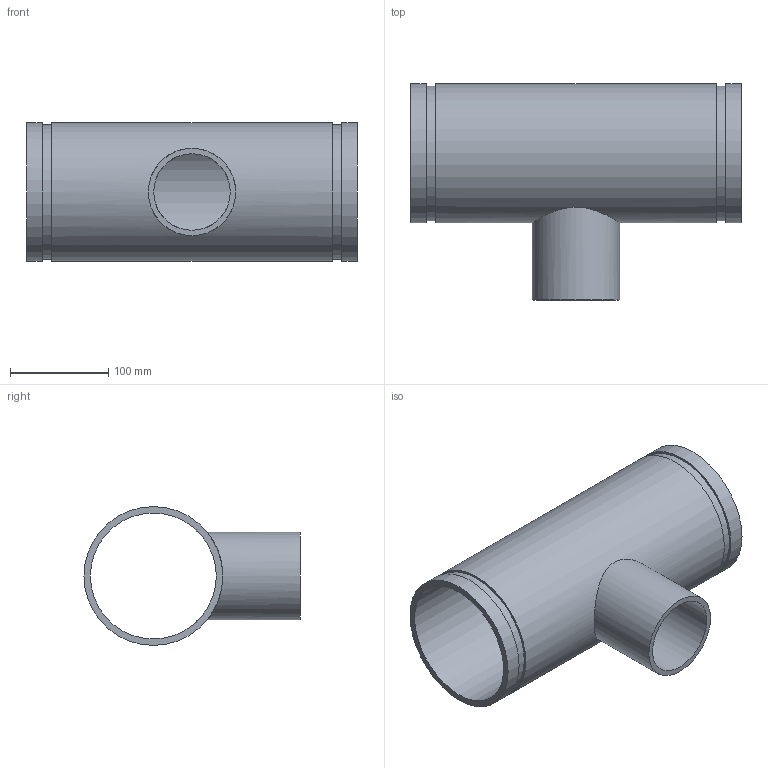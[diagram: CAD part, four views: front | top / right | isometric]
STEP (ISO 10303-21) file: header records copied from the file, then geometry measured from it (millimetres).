
FILE_DESCRIPTION(/* description */ ('VIC REDUCING TEE No 29T FFT (OGSxMPT)','CAx-IF Rec.Pracs.---Representation and Presentation of Product Manufacturing Information (PMI)---4.0---2014-10-13'),/* implementation_level */ '2;1');
FILE_NAME(/* name */ 'C:\Users\kkamble\AppData\Roaming\Autodesk\ApplicationPlugins\Back Up\Victaulic_IPS_Tee Reducing_No 29T FFT (OGSxMPT)\Victaulic_IPS_Tee Reducing_No 29T FFT (OGSxMPT)_05.0x03.0 (125x80).stp',/* time_stamp */ '2020-09-16T22:38:21+05:00',/* author */ ('CORINNE GRAY'),/* organization */ ('Victaulic'),/* preprocessor_version */ 'ST-DEVELOPER v17.2',/* originating_system */ 'Autodesk Inventor 2019',/* authorisation */ '');
FILE_SCHEMA (('AP242_MANAGED_MODEL_BASED_3D_ENGINEERING_MIM_LF { 1 0 10303 442 1 1 4 }'));
Length unit declared in the file: inch
Products named in the file (1): 29 FFT-05.0x03.0
Bounding box: 336.8 x 220 x 141.3 mm (x, y, z)
Volume: 1006551 mm3; surface area: 330564.6 mm2
Topology: 1 solids, 1 shells, 15 faces, 32 edges, 24 vertices
Faces by surface type: cylinder 8, plane 7
Full cylindrical faces by diameter (mm): 77.927 x1, 88.9 x1, 128.194 x1, 137.033 x2, 141.3 x3
Entity records: 709 total; most frequent: CARTESIAN_POINT 221, DIRECTION 106, ORIENTED_EDGE 64, AXIS2_PLACEMENT_3D 49, EDGE_CURVE 32, EDGE_LOOP 24, VERTEX_POINT 24, CIRCLE 20
